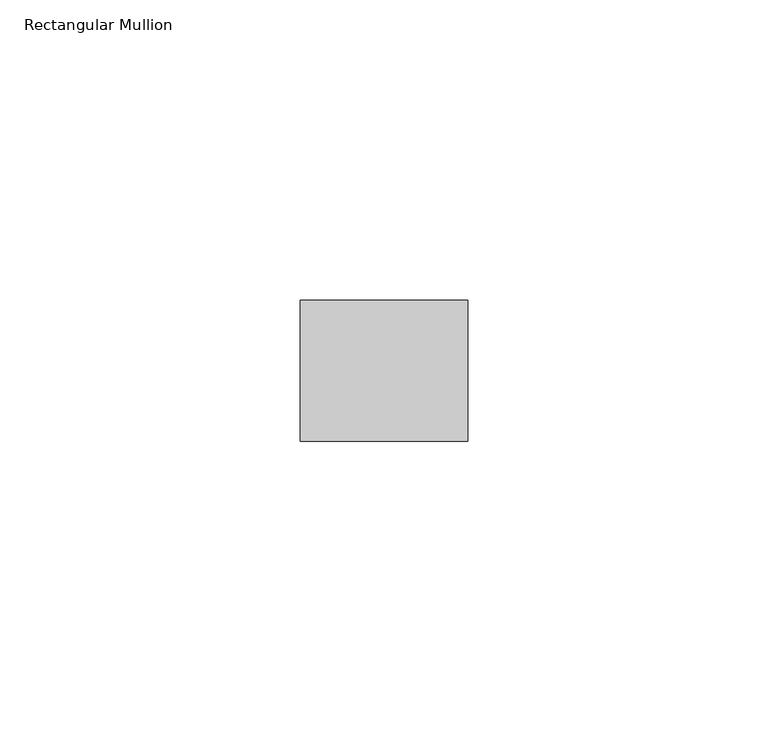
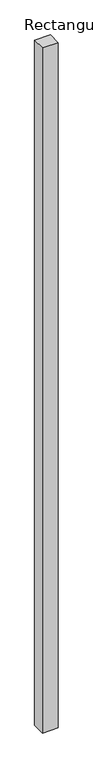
"""IFC4 building model written with IfcOpenShell, lengths in millimetres: member geometry, Rectangular Mullion : Lite Scale Glasing - Base Trim."""

from ifc_helpers import new_model, si_unit, frame, origin, place, context, project, spatial, polyline, outline, extrude, source, transform, mapped, element, save


def rectangular_mullion_3c61a903(model_context):
    return source(origin(), model_context, "Body", "SweptSolid", [
        extrude(outline(polyline([(0.0, -11.7474999), (-27.94, -11.7474999), (-27.94, 11.7474999), (0.0, 11.7474999), (0.0, -11.7474999)])), frame((0.0, 0.0, -1277.3816494), z_axis=(0.0, 0.0, 1.0), x_axis=(1.0, 0.0, 0.0)), (0.0, 0.0, 1.0), 1277.3816494),
    ])


if __name__ == "__main__":
    model = new_model("IFC4")
    model_context = context("Model", 3, world=origin())
    ifc_project = project(units=[si_unit("LENGTHUNIT", "METRE", prefix="MILLI")], contexts=[model_context])
    site = spatial("IfcSite", under=ifc_project)
    building = spatial("IfcBuilding", under=site)
    placement = place(None, origin())
    rectangular_mullion_shape = rectangular_mullion_3c61a903(model_context)
    element("IfcMember", 1, ObjectType="Rectangular Mullion : Lite Scale Glasing - Base Trim", at=placement, inside=building, context=model_context, shape_type="MappedRepresentation", body=[
        mapped(rectangular_mullion_shape, transform((0.0, 0.0, 0.0), x_axis=(1.0, 0.0, 0.0), y_axis=(0.0, 1.0, 0.0), z_axis=(0.0, 0.0, 1.0))),
    ])
    save(model, "model.ifc")
